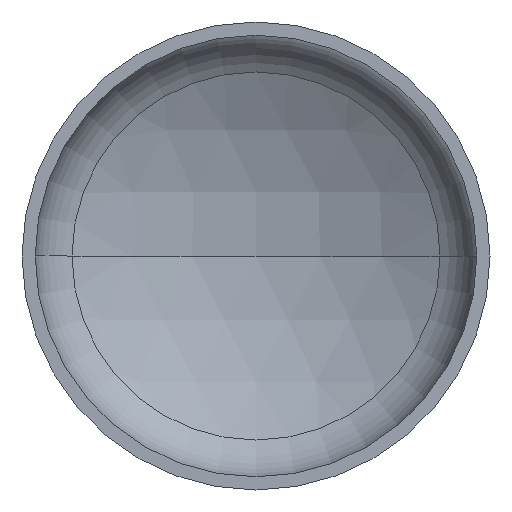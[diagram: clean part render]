
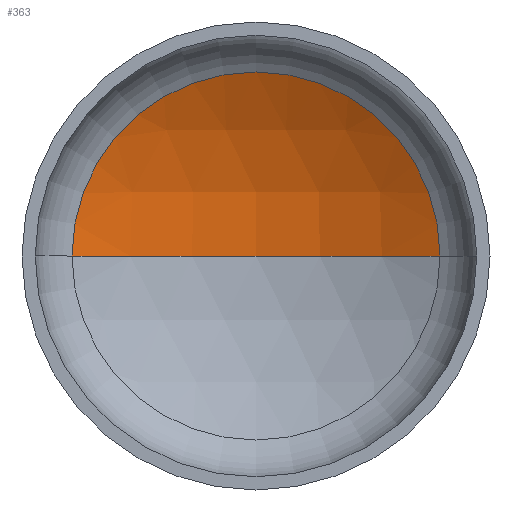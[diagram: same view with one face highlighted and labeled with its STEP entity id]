
A CAD part, front view. The second image highlights one B-rep face of the part: STEP entity #363.
In plain terms, the highlighted spherical face has radius 2720 mm.
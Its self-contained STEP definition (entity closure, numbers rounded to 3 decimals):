
#10 = AXIS2_PLACEMENT_3D ( 'NONE', #301, #298, #297 ) ;
#24 = VERTEX_POINT ( 'NONE', #394 ) ;
#33 = EDGE_CURVE ( 'NONE', #203, #225, #166, .T. ) ;
#44 = DIRECTION ( 'NONE',  ( 0., 0., -1. ) ) ;
#57 = CIRCLE ( 'NONE', #117, 2720. ) ;
#77 = EDGE_CURVE ( 'NONE', #24, #203, #233, .T. ) ;
#82 = CARTESIAN_POINT ( 'NONE',  ( 0., -1811.487, 0. ) ) ;
#102 = DIRECTION ( 'NONE',  ( 0., 0., 1. ) ) ;
#107 = DIRECTION ( 'NONE',  ( 1., 0., 0. ) ) ;
#116 = DIRECTION ( 'NONE',  ( -1., 0., 0. ) ) ;
#117 = AXIS2_PLACEMENT_3D ( 'NONE', #82, #102, #107 ) ;
#130 = EDGE_CURVE ( 'NONE', #24, #225, #57, .T. ) ;
#138 = CARTESIAN_POINT ( 'NONE',  ( -1337.075, 557.189, 0. ) ) ;
#140 = AXIS2_PLACEMENT_3D ( 'NONE', #313, #309, #116 ) ;
#166 = CIRCLE ( 'NONE', #10, 1337.075 ) ;
#180 = AXIS2_PLACEMENT_3D ( 'NONE', #245, #44, #395 ) ;
#195 = EDGE_LOOP ( 'NONE', ( #209, #372, #347 ) ) ;
#203 = VERTEX_POINT ( 'NONE', #213 ) ;
#209 = ORIENTED_EDGE ( 'NONE', *, *, #130, .F. ) ;
#213 = CARTESIAN_POINT ( 'NONE',  ( 1337.075, 557.189, 0. ) ) ;
#225 = VERTEX_POINT ( 'NONE', #138 ) ;
#233 = CIRCLE ( 'NONE', #140, 2720. ) ;
#245 = CARTESIAN_POINT ( 'NONE',  ( 0., -1811.487, 0. ) ) ;
#247 = SPHERICAL_SURFACE ( 'NONE', #180, 2720. ) ;
#297 = DIRECTION ( 'NONE',  ( 1., 0., 0. ) ) ;
#298 = DIRECTION ( 'NONE',  ( 0., -1., 0. ) ) ;
#301 = CARTESIAN_POINT ( 'NONE',  ( 0., 557.189, 0. ) ) ;
#309 = DIRECTION ( 'NONE',  ( 0., 0., -1. ) ) ;
#313 = CARTESIAN_POINT ( 'NONE',  ( 0., -1811.487, 0. ) ) ;
#339 = FACE_OUTER_BOUND ( 'NONE', #195, .T. ) ;
#347 = ORIENTED_EDGE ( 'NONE', *, *, #33, .T. ) ;
#363 = ADVANCED_FACE ( 'NONE', ( #339 ), #247, .F. ) ;
#372 = ORIENTED_EDGE ( 'NONE', *, *, #77, .T. ) ;
#394 = CARTESIAN_POINT ( 'NONE',  ( 0., 908.513, 0. ) ) ;
#395 = DIRECTION ( 'NONE',  ( -1., 0., 0. ) ) ;
